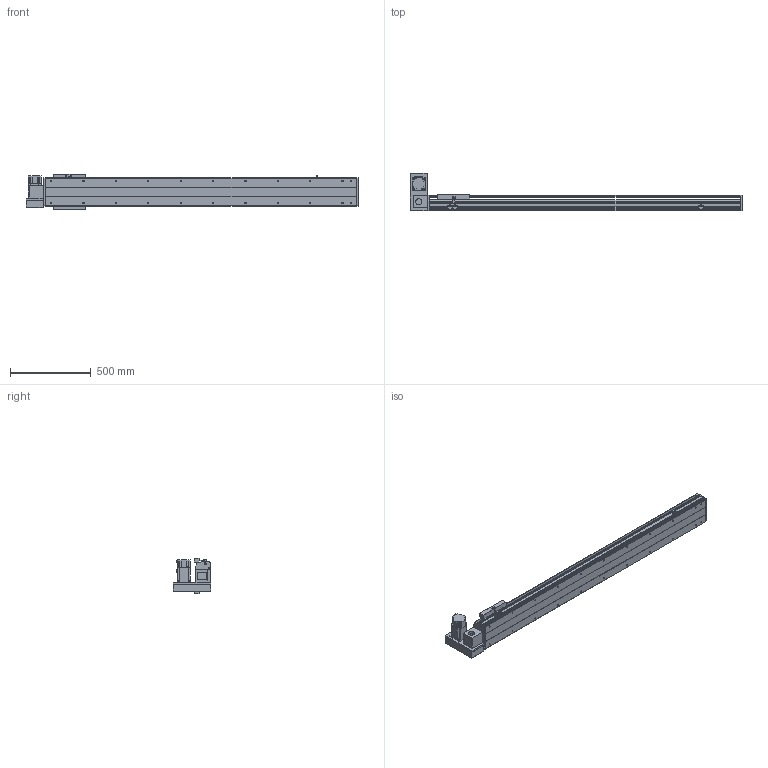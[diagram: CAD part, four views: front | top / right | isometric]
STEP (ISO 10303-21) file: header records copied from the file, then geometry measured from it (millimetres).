
FILE_DESCRIPTION(/* description */ ('STEP AP214'),/* implementation_level */ '2;1');
FILE_NAME(/* name */ 'PBS200-P40-S1550-LU-T75-C1-N(0)',/* time_stamp */ '2022-06-11T09:01:02+02:00',/* author */ ('License CC BY-ND 4.0'),/* organization */ ('CADENAS'),/* preprocessor_version */ 'ST-DEVELOPER v18.102',/* originating_system */ 'PARTsolutions',/* authorisation */ ' ');
FILE_SCHEMA (('AUTOMOTIVE_DESIGN {1 0 10303 214 3 1 1}'));
Length unit declared in the file: millimetre
Products named in the file (7): PBS200-P40-S1550-LU-T75-C1-N(0); PBS200_sensor; PBS200_plant; PBS200_sliser; T75-p1; PBS200T-LU_motors; PBS200-S1550()_body
Assembly tree (8 placements, depth 2):
  PBS200-P40-S1550-LU-T75-C1-N(0)
    PBS200_sensor  x3
    PBS200_plant
    PBS200_sliser
    T75-p1
    PBS200T-LU_motors
    PBS200-S1550()_body
Bounding box: 2050 x 231 x 221 mm (x, y, z)
Volume: 14671314.1 mm3; surface area: 2361277.1 mm2
Topology: 8 solids, 8 shells, 938 faces, 2404 edges, 1566 vertices
Faces by surface type: plane 580, cylinder 304, cone 54
Full cylindrical faces by diameter (mm): 2.459 x6, 3.242 x4, 4.5 x6, 4.917 x4, 5 x6, 6 x7, 6.6 x8, 6.647 x26, 8 x6, 10 x4, 12 x8, 38 x2, 40 x1, 70 x1
Entity records: 24941 total; most frequent: DIRECTION 4399, CARTESIAN_POINT 4246, ORIENTED_EDGE 4018, EDGE_CURVE 2009, AXIS2_PLACEMENT_3D 1543, VERTEX_POINT 1390, LINE 1313, VECTOR 1313
